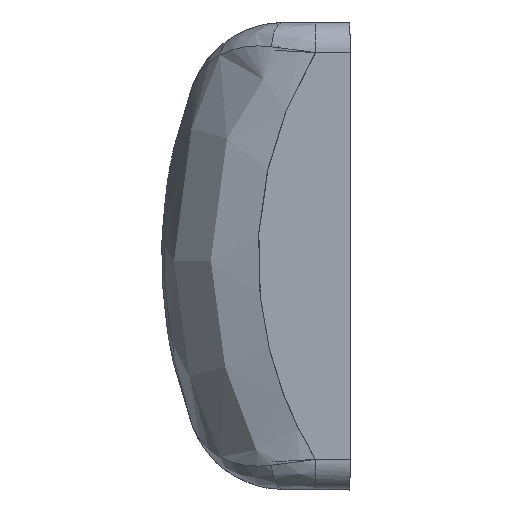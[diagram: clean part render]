
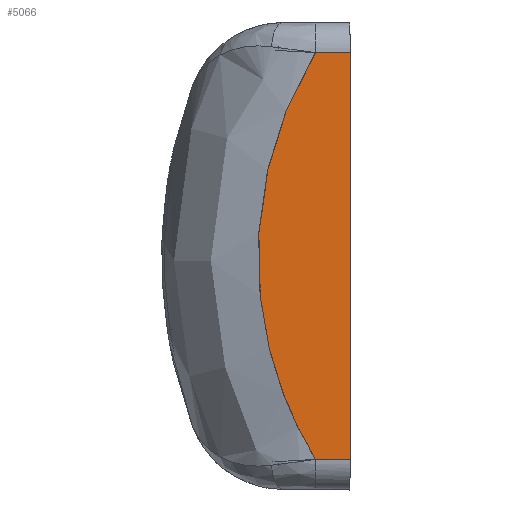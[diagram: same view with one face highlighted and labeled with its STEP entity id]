
A CAD part, left-side view. The second image highlights one B-rep face of the part: STEP entity #5066.
In plain terms, the highlighted planar face has unit normal (-1, 0.009, 0).
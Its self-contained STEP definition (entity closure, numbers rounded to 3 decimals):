
#202=DIRECTION('',(-0.009,-1.,0.009));
#203=VECTOR('',#202,2.851);
#204=CARTESIAN_POINT('',(-206.975,2.851,16.725));
#205=LINE('',#204,#203);
#206=DIRECTION('',(0.,0.,-1.));
#207=VECTOR('',#206,33.5);
#208=CARTESIAN_POINT('',(-207.,0.,16.75));
#209=LINE('',#208,#207);
#210=DIRECTION('',(-0.009,-1.,-0.009));
#211=VECTOR('',#210,2.851);
#212=CARTESIAN_POINT('',(-206.975,2.851,-16.725));
#213=LINE('',#212,#211);
#214=CARTESIAN_POINT('',(-206.975,2.851,16.725));
#215=CARTESIAN_POINT('',(-206.971,3.328,15.948));
#216=CARTESIAN_POINT('',(-206.963,4.249,14.293));
#217=CARTESIAN_POINT('',(-206.952,5.47,11.547));
#218=CARTESIAN_POINT('',(-206.943,6.544,8.306));
#219=CARTESIAN_POINT('',(-206.936,7.325,4.559));
#220=CARTESIAN_POINT('',(-206.933,7.642,0.617));
#221=CARTESIAN_POINT('',(-206.935,7.484,-3.105));
#222=CARTESIAN_POINT('',(-206.939,6.977,-6.389));
#223=CARTESIAN_POINT('',(-206.946,6.243,-9.264));
#224=CARTESIAN_POINT('',(-206.953,5.332,-11.858));
#225=CARTESIAN_POINT('',(-206.963,4.228,-14.324));
#226=CARTESIAN_POINT('',(-206.971,3.336,-15.934));
#227=CARTESIAN_POINT('',(-206.975,2.851,-16.725));
#2064=CARTESIAN_POINT('',(-207.,0.,16.75));
#2074=CARTESIAN_POINT('',(-207.,0.,-16.75));
#4986=VERTEX_POINT('',#2064);
#4987=CARTESIAN_POINT('',(-206.975,2.851,16.725));
#4988=VERTEX_POINT('',#4987);
#4992=VERTEX_POINT('',#2074);
#4996=CARTESIAN_POINT('',(-206.975,2.851,
-16.725));
#4997=VERTEX_POINT('',#4996);
#5051=CARTESIAN_POINT('',(-207.,0.,24.243));
#5052=DIRECTION('',(1.,-0.009,0.));
#5053=DIRECTION('',(0.,0.,1.));
#5054=AXIS2_PLACEMENT_3D('',#5051,#5052,#5053);
#5055=PLANE('',#5054);
#5057=ORIENTED_EDGE('',*,*,#5056,.T.);
#5059=ORIENTED_EDGE('',*,*,#5058,.T.);
#5061=ORIENTED_EDGE('',*,*,#5060,.F.);
#5063=ORIENTED_EDGE('',*,*,#5062,.F.);
#5064=EDGE_LOOP('',(#5057,#5059,#5061,#5063));
#5065=FACE_OUTER_BOUND('',#5064,.F.);
#228=B_SPLINE_CURVE_WITH_KNOTS('',3,(#214,#215,#216,#217,#218,#219,#220,#221,
#222,#223,#224,#225,#226,#227),.UNSPECIFIED.,.F.,.F.,(4,1,1,1,1,1,1,1,1,1,1,4),(
0.,0.091,0.182,0.273,0.364,
0.455,0.545,0.636,0.727,
0.818,0.909,1.),.UNSPECIFIED.);
#5056=EDGE_CURVE('',#4988,#4986,#205,.T.);
#5058=EDGE_CURVE('',#4986,#4992,#209,.T.);
#5060=EDGE_CURVE('',#4997,#4992,#213,.T.);
#5062=EDGE_CURVE('',#4988,#4997,#228,.T.);
#5066=ADVANCED_FACE('',(#5065),#5055,.F.);
